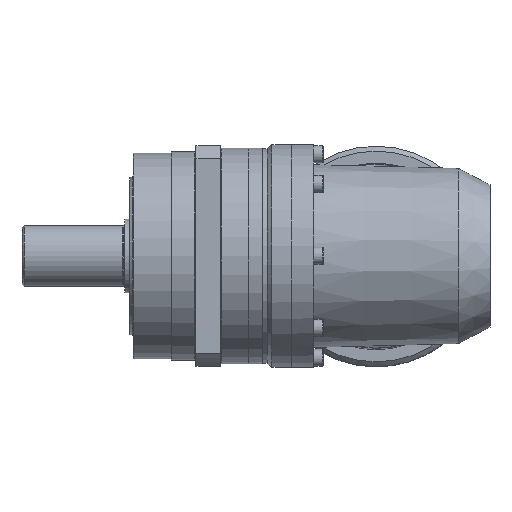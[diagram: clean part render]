
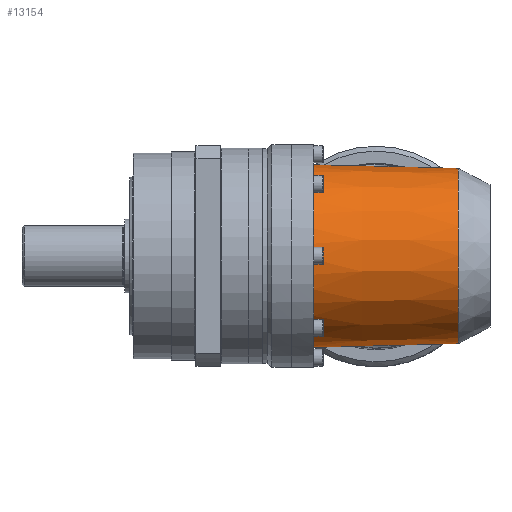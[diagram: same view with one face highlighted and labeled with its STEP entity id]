
A CAD part, top view. The second image highlights one B-rep face of the part: STEP entity #13154.
In plain terms, the highlighted conical face has half-angle 1.493 degrees and reference radius 36.52 mm.
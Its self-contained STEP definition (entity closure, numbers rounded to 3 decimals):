
#719=CONICAL_SURFACE('',#14650,36.52,0.026);
#1453=FACE_OUTER_BOUND('',#2218,.T.);
#2218=EDGE_LOOP('',(#9670,#9671,#9672,#9673,#9674,#9675,#9676,#9677,#9678,
#9679,#9680));
#3030=B_SPLINE_CURVE_WITH_KNOTS('',3,(#21995,#21996,#21997,#21998),
 .UNSPECIFIED.,.F.,.F.,(4,4),(-4.459,-0.312),
 .UNSPECIFIED.);
#3031=B_SPLINE_CURVE_WITH_KNOTS('',3,(#22001,#22002,#22003,#22004,#22005,
#22006),.UNSPECIFIED.,.F.,.F.,(4,2,4),(7.893,8.066,
8.315),.UNSPECIFIED.);
#3032=B_SPLINE_CURVE_WITH_KNOTS('',3,(#22017,#22018,#22019,#22020),
 .UNSPECIFIED.,.F.,.F.,(4,4),(-4.152,-0.005),
 .UNSPECIFIED.);
#3033=B_SPLINE_CURVE_WITH_KNOTS('',3,(#22022,#22023,#22024,#22025,#22026,
#22027),.UNSPECIFIED.,.F.,.F.,(4,2,4),(1.596,1.844,
2.017),.UNSPECIFIED.);
#3034=B_SPLINE_CURVE_WITH_KNOTS('',3,(#22028,#22029,#22030,#22031,#22032,
#22033,#22034,#22035,#22036,#22037,#22038,#22039,#22040,#22041,#22042,#22043,
#22044,#22045,#22046,#22047,#22048,#22049),.UNSPECIFIED.,.F.,.F.,(4,2,2,
2,2,2,2,2,2,2,4),(2.017,2.459,3.083,3.707,
4.331,4.955,5.579,6.203,6.827,
7.451,7.893),.UNSPECIFIED.);
#3269=LINE('',#22010,#3915);
#3915=VECTOR('',#17045,36.52);
#4574=CIRCLE('',#14651,37.29);
#4575=CIRCLE('',#14652,35.75);
#4576=CIRCLE('',#14653,35.75);
#4577=CIRCLE('',#14654,37.29);
#5751=VERTEX_POINT('',#21954);
#5754=VERTEX_POINT('',#21969);
#5755=VERTEX_POINT('',#22000);
#5756=VERTEX_POINT('',#22007);
#5757=VERTEX_POINT('',#22009);
#5758=VERTEX_POINT('',#22011);
#5759=VERTEX_POINT('',#22014);
#5760=VERTEX_POINT('',#22016);
#5761=VERTEX_POINT('',#22021);
#7334=EDGE_CURVE('',#5754,#5751,#3030,.T.);
#7335=EDGE_CURVE('',#5755,#5751,#3031,.T.);
#7336=EDGE_CURVE('',#5756,#5754,#4574,.T.);
#7337=EDGE_CURVE('',#5756,#5757,#3269,.T.);
#7338=EDGE_CURVE('',#5757,#5758,#4575,.T.);
#7339=EDGE_CURVE('',#5758,#5757,#4576,.T.);
#7340=EDGE_CURVE('',#5759,#5756,#4577,.T.);
#7341=EDGE_CURVE('',#5760,#5759,#3032,.T.);
#7342=EDGE_CURVE('',#5760,#5761,#3033,.T.);
#7343=EDGE_CURVE('',#5761,#5755,#3034,.T.);
#9670=ORIENTED_EDGE('',*,*,#7335,.T.);
#9671=ORIENTED_EDGE('',*,*,#7334,.F.);
#9672=ORIENTED_EDGE('',*,*,#7336,.F.);
#9673=ORIENTED_EDGE('',*,*,#7337,.T.);
#9674=ORIENTED_EDGE('',*,*,#7338,.T.);
#9675=ORIENTED_EDGE('',*,*,#7339,.T.);
#9676=ORIENTED_EDGE('',*,*,#7337,.F.);
#9677=ORIENTED_EDGE('',*,*,#7340,.F.);
#9678=ORIENTED_EDGE('',*,*,#7341,.F.);
#9679=ORIENTED_EDGE('',*,*,#7342,.T.);
#9680=ORIENTED_EDGE('',*,*,#7343,.T.);
#13154=ADVANCED_FACE('',(#1453),#719,.T.);
#14650=AXIS2_PLACEMENT_3D('',#21999,#17041,#17042);
#14651=AXIS2_PLACEMENT_3D('',#22008,#17043,#17044);
#14652=AXIS2_PLACEMENT_3D('',#22012,#17046,#17047);
#14653=AXIS2_PLACEMENT_3D('',#22013,#17048,#17049);
#14654=AXIS2_PLACEMENT_3D('',#22015,#17050,#17051);
#17041=DIRECTION('center_axis',(-1.,0.,0.));
#17042=DIRECTION('ref_axis',(0.,-1.,0.));
#17043=DIRECTION('center_axis',(-1.,0.,0.));
#17044=DIRECTION('ref_axis',(0.,0.,1.));
#17045=DIRECTION('',(1.,-0.026,0.));
#17046=DIRECTION('center_axis',(-1.,0.,0.));
#17047=DIRECTION('ref_axis',(0.,0.,1.));
#17048=DIRECTION('center_axis',(-1.,0.,0.));
#17049=DIRECTION('ref_axis',(0.,0.,1.));
#17050=DIRECTION('center_axis',(-1.,0.,0.));
#17051=DIRECTION('ref_axis',(0.,0.,1.));
#21954=CARTESIAN_POINT('',(50.455,-25.979,25.224));
#21969=CARTESIAN_POINT('',(9.,-26.553,26.182));
#21995=CARTESIAN_POINT('Ctrl Pts',(9.,-26.553,26.182));
#21996=CARTESIAN_POINT('Ctrl Pts',(22.818,-26.362,25.863));
#21997=CARTESIAN_POINT('Ctrl Pts',(36.637,-26.17,25.544));
#21998=CARTESIAN_POINT('Ctrl Pts',(50.455,-25.979,25.224));
#21999=CARTESIAN_POINT('Origin',(38.55,0.,0.));
#22000=CARTESIAN_POINT('',(53.981,-23.984,27.005));
#22001=CARTESIAN_POINT('Ctrl Pts',(53.981,-23.984,27.005));
#22002=CARTESIAN_POINT('Ctrl Pts',(53.524,-24.281,26.758));
#22003=CARTESIAN_POINT('Ctrl Pts',(53.058,-24.568,26.51));
#22004=CARTESIAN_POINT('Ctrl Pts',(51.892,-25.245,25.912));
#22005=CARTESIAN_POINT('Ctrl Pts',(51.183,-25.624,25.563));
#22006=CARTESIAN_POINT('Ctrl Pts',(50.455,-25.979,25.224));
#22007=CARTESIAN_POINT('',(9.,37.29,0.));
#22008=CARTESIAN_POINT('Origin',(9.,0.,0.));
#22009=CARTESIAN_POINT('',(68.1,35.75,0.));
#22010=CARTESIAN_POINT('',(38.55,36.52,0.));
#22011=CARTESIAN_POINT('',(68.1,-35.75,0.));
#22012=CARTESIAN_POINT('Origin',(68.1,0.,0.));
#22013=CARTESIAN_POINT('Origin',(68.1,0.,0.));
#22014=CARTESIAN_POINT('',(9.,26.553,26.182));
#22015=CARTESIAN_POINT('Origin',(9.,0.,0.));
#22016=CARTESIAN_POINT('',(50.455,25.979,25.224));
#22017=CARTESIAN_POINT('Ctrl Pts',(50.455,25.979,25.224));
#22018=CARTESIAN_POINT('Ctrl Pts',(36.637,26.17,25.544));
#22019=CARTESIAN_POINT('Ctrl Pts',(22.818,26.362,25.863));
#22020=CARTESIAN_POINT('Ctrl Pts',(9.,26.553,26.182));
#22021=CARTESIAN_POINT('',(53.981,23.984,27.005));
#22022=CARTESIAN_POINT('Ctrl Pts',(50.455,25.979,25.224));
#22023=CARTESIAN_POINT('Ctrl Pts',(51.183,25.624,25.563));
#22024=CARTESIAN_POINT('Ctrl Pts',(51.892,25.245,25.912));
#22025=CARTESIAN_POINT('Ctrl Pts',(53.058,24.568,26.51));
#22026=CARTESIAN_POINT('Ctrl Pts',(53.524,24.281,26.758));
#22027=CARTESIAN_POINT('Ctrl Pts',(53.981,23.984,27.005));
#22028=CARTESIAN_POINT('Ctrl Pts',(53.981,23.984,27.005));
#22029=CARTESIAN_POINT('Ctrl Pts',(55.153,23.221,27.642));
#22030=CARTESIAN_POINT('Ctrl Pts',(56.255,22.395,28.282));
#22031=CARTESIAN_POINT('Ctrl Pts',(58.71,20.295,29.765));
#22032=CARTESIAN_POINT('Ctrl Pts',(60.093,18.881,30.654));
#22033=CARTESIAN_POINT('Ctrl Pts',(62.584,15.725,32.315));
#22034=CARTESIAN_POINT('Ctrl Pts',(63.692,13.983,33.086));
#22035=CARTESIAN_POINT('Ctrl Pts',(65.512,10.258,34.374));
#22036=CARTESIAN_POINT('Ctrl Pts',(66.226,8.272,34.892));
#22037=CARTESIAN_POINT('Ctrl Pts',(67.18,4.182,35.589));
#22038=CARTESIAN_POINT('Ctrl Pts',(67.421,2.08,35.768));
#22039=CARTESIAN_POINT('Ctrl Pts',(67.421,-2.08,35.768));
#22040=CARTESIAN_POINT('Ctrl Pts',(67.18,-4.182,35.589));
#22041=CARTESIAN_POINT('Ctrl Pts',(66.226,-8.272,34.892));
#22042=CARTESIAN_POINT('Ctrl Pts',(65.512,-10.258,34.374));
#22043=CARTESIAN_POINT('Ctrl Pts',(63.692,-13.983,33.086));
#22044=CARTESIAN_POINT('Ctrl Pts',(62.584,-15.725,32.315));
#22045=CARTESIAN_POINT('Ctrl Pts',(60.093,-18.881,30.654));
#22046=CARTESIAN_POINT('Ctrl Pts',(58.71,-20.295,29.765));
#22047=CARTESIAN_POINT('Ctrl Pts',(56.255,-22.395,28.282));
#22048=CARTESIAN_POINT('Ctrl Pts',(55.153,-23.221,27.642));
#22049=CARTESIAN_POINT('Ctrl Pts',(53.981,-23.984,27.005));
